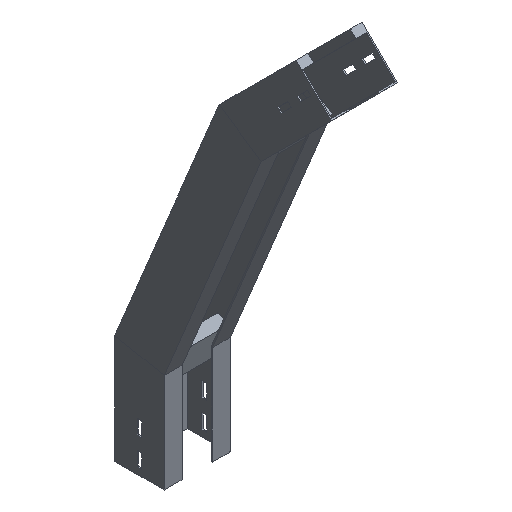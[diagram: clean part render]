
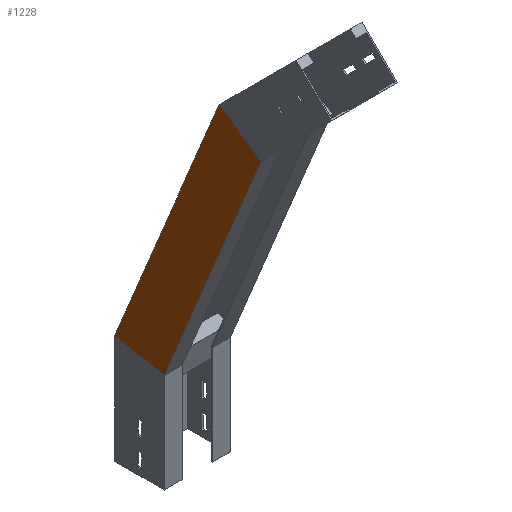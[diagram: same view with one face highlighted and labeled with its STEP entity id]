
A CAD part, isometric view. The second image highlights one B-rep face of the part: STEP entity #1228.
In plain terms, the highlighted planar face has unit normal (-1, 0, 0) as drawn and (1, 0, 0) by its records, which use the part's own axes.
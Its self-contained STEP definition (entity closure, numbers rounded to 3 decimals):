
#53 = CARTESIAN_POINT ( 'NONE',  ( 0., -28.701, 144.291 ) ) ;
#80 = DIRECTION ( 'NONE',  ( 1., 0., 0. ) ) ;
#123 = EDGE_CURVE ( 'NONE', #244, #863, #1115, .T. ) ;
#170 = PLANE ( 'NONE',  #1419 ) ;
#173 = VECTOR ( 'NONE', #193, 1000. ) ;
#193 = DIRECTION ( 'NONE',  ( 0., -0.383, 0.924 ) ) ;
#244 = VERTEX_POINT ( 'NONE', #1021 ) ;
#289 = EDGE_CURVE ( 'NONE', #1473, #244, #619, .T. ) ;
#312 = DIRECTION ( 'NONE',  ( 0., 0., -1. ) ) ;
#332 = CARTESIAN_POINT ( 'NONE',  ( 0., 75., 164.918 ) ) ;
#401 = DIRECTION ( 'NONE',  ( 0., -0.383, 0.924 ) ) ;
#418 = CARTESIAN_POINT ( 'NONE',  ( 0., 75.609, 163.448 ) ) ;
#454 = CARTESIAN_POINT ( 'NONE',  ( 0., -211.373, 460.544 ) ) ;
#619 = LINE ( 'NONE', #53, #787 ) ;
#627 = VECTOR ( 'NONE', #1231, 1000. ) ;
#661 = CARTESIAN_POINT ( 'NONE',  ( 0., 6.318, 134.746 ) ) ;
#771 = LINE ( 'NONE', #454, #627 ) ;
#787 = VECTOR ( 'NONE', #1334, 1000. ) ;
#856 = EDGE_CURVE ( 'NONE', #916, #863, #771, .T. ) ;
#863 = VERTEX_POINT ( 'NONE', #990 ) ;
#916 = VERTEX_POINT ( 'NONE', #1006 ) ;
#953 = ORIENTED_EDGE ( 'NONE', *, *, #123, .F. ) ;
#990 = CARTESIAN_POINT ( 'NONE',  ( 0., -146.568, 503.846 ) ) ;
#1006 = CARTESIAN_POINT ( 'NONE',  ( 0., -82.986, 546.33 ) ) ;
#1021 = CARTESIAN_POINT ( 'NONE',  ( 0., 0., 150. ) ) ;
#1077 = EDGE_LOOP ( 'NONE', ( #1475, #1259, #953, #1335 ) ) ;
#1115 = LINE ( 'NONE', #1243, #173 ) ;
#1184 = EDGE_CURVE ( 'NONE', #1473, #916, #1436, .T. ) ;
#1228 = ADVANCED_FACE ( 'NONE', ( #1244 ), #170, .T. ) ;
#1231 = DIRECTION ( 'NONE',  ( 0., -0.831, -0.556 ) ) ;
#1243 = CARTESIAN_POINT ( 'NONE',  ( 0., 6.318, 134.746 ) ) ;
#1244 = FACE_OUTER_BOUND ( 'NONE', #1077, .T. ) ;
#1259 = ORIENTED_EDGE ( 'NONE', *, *, #856, .T. ) ;
#1334 = DIRECTION ( 'NONE',  ( 0., -0.981, -0.195 ) ) ;
#1335 = ORIENTED_EDGE ( 'NONE', *, *, #289, .F. ) ;
#1397 = VECTOR ( 'NONE', #401, 1000. ) ;
#1419 = AXIS2_PLACEMENT_3D ( 'NONE', #661, #80, #312 ) ;
#1436 = LINE ( 'NONE', #418, #1397 ) ;
#1473 = VERTEX_POINT ( 'NONE', #332 ) ;
#1475 = ORIENTED_EDGE ( 'NONE', *, *, #1184, .T. ) ;
